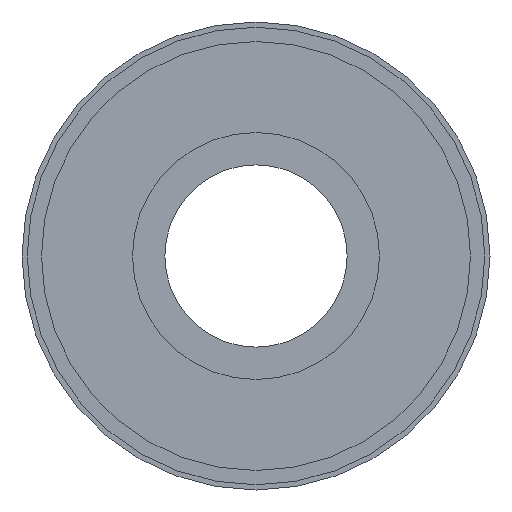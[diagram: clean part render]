
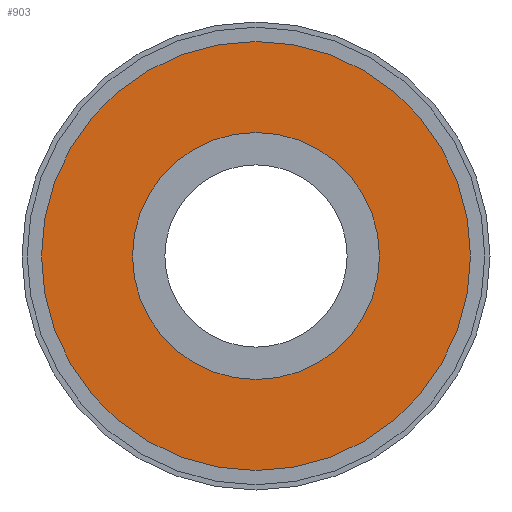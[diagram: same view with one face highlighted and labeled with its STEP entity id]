
A CAD part, front view. The second image highlights one B-rep face of the part: STEP entity #903.
In plain terms, the highlighted planar face has unit normal (0, -1, 0).
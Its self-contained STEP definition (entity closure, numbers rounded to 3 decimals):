
#7 = AXIS2_PLACEMENT_3D ( 'NONE', #493, #174, #1378 ) ;
#10 = CARTESIAN_POINT ( 'NONE',  ( 0., 38., 82.5 ) ) ;
#11 = ORIENTED_EDGE ( 'NONE', *, *, #211, .F. ) ;
#45 = CARTESIAN_POINT ( 'NONE',  ( 0., 38., 0. ) ) ;
#159 = ORIENTED_EDGE ( 'NONE', *, *, #621, .T. ) ;
#174 = DIRECTION ( 'NONE',  ( 0., -1., 0. ) ) ;
#211 = EDGE_CURVE ( 'NONE', #970, #1234, #471, .T. ) ;
#222 = CARTESIAN_POINT ( 'NONE',  ( 0., 38., 0. ) ) ;
#252 = EDGE_CURVE ( 'NONE', #1105, #441, #1226, .T. ) ;
#294 = EDGE_LOOP ( 'NONE', ( #1230, #159 ) ) ;
#337 = DIRECTION ( 'NONE',  ( 0., -1., 0. ) ) ;
#438 = FACE_OUTER_BOUND ( 'NONE', #294, .T. ) ;
#441 = VERTEX_POINT ( 'NONE', #10 ) ;
#446 = CARTESIAN_POINT ( 'NONE',  ( 0., 38., -82.5 ) ) ;
#471 = CIRCLE ( 'NONE', #1373, 38.05 ) ;
#493 = CARTESIAN_POINT ( 'NONE',  ( 0., 38., 0. ) ) ;
#498 = DIRECTION ( 'NONE',  ( 0., 0., -1. ) ) ;
#550 = FACE_BOUND ( 'NONE', #580, .T. ) ;
#580 = EDGE_LOOP ( 'NONE', ( #1144, #11 ) ) ;
#621 = EDGE_CURVE ( 'NONE', #441, #1105, #1311, .T. ) ;
#710 = CARTESIAN_POINT ( 'NONE',  ( 0., 38., 0. ) ) ;
#722 = DIRECTION ( 'NONE',  ( 0., -1., 0. ) ) ;
#746 = DIRECTION ( 'NONE',  ( 0., 0., -1. ) ) ;
#768 = CARTESIAN_POINT ( 'NONE',  ( 0., 38., 38.05 ) ) ;
#795 = DIRECTION ( 'NONE',  ( 0., -1., 0. ) ) ;
#845 = EDGE_CURVE ( 'NONE', #1234, #970, #1110, .T. ) ;
#872 = DIRECTION ( 'NONE',  ( 0., 0., -1. ) ) ;
#903 = ADVANCED_FACE ( 'NONE', ( #438, #550 ), #1327, .T. ) ;
#970 = VERTEX_POINT ( 'NONE', #768 ) ;
#995 = DIRECTION ( 'NONE',  ( 0., -1., 0. ) ) ;
#1088 = AXIS2_PLACEMENT_3D ( 'NONE', #222, #995, #746 ) ;
#1105 = VERTEX_POINT ( 'NONE', #1371 ) ;
#1110 = CIRCLE ( 'NONE', #1088, 38.05 ) ;
#1144 = ORIENTED_EDGE ( 'NONE', *, *, #845, .F. ) ;
#1172 = DIRECTION ( 'NONE',  ( 0., 0., -1. ) ) ;
#1219 = AXIS2_PLACEMENT_3D ( 'NONE', #446, #337, #872 ) ;
#1226 = CIRCLE ( 'NONE', #7, 82.5 ) ;
#1230 = ORIENTED_EDGE ( 'NONE', *, *, #252, .T. ) ;
#1234 = VERTEX_POINT ( 'NONE', #1342 ) ;
#1311 = CIRCLE ( 'NONE', #1334, 82.5 ) ;
#1327 = PLANE ( 'NONE',  #1219 ) ;
#1334 = AXIS2_PLACEMENT_3D ( 'NONE', #45, #795, #498 ) ;
#1342 = CARTESIAN_POINT ( 'NONE',  ( 0., 38., -38.05 ) ) ;
#1371 = CARTESIAN_POINT ( 'NONE',  ( 0., 38., -82.5 ) ) ;
#1373 = AXIS2_PLACEMENT_3D ( 'NONE', #710, #722, #1172 ) ;
#1378 = DIRECTION ( 'NONE',  ( 0., 0., -1. ) ) ;
